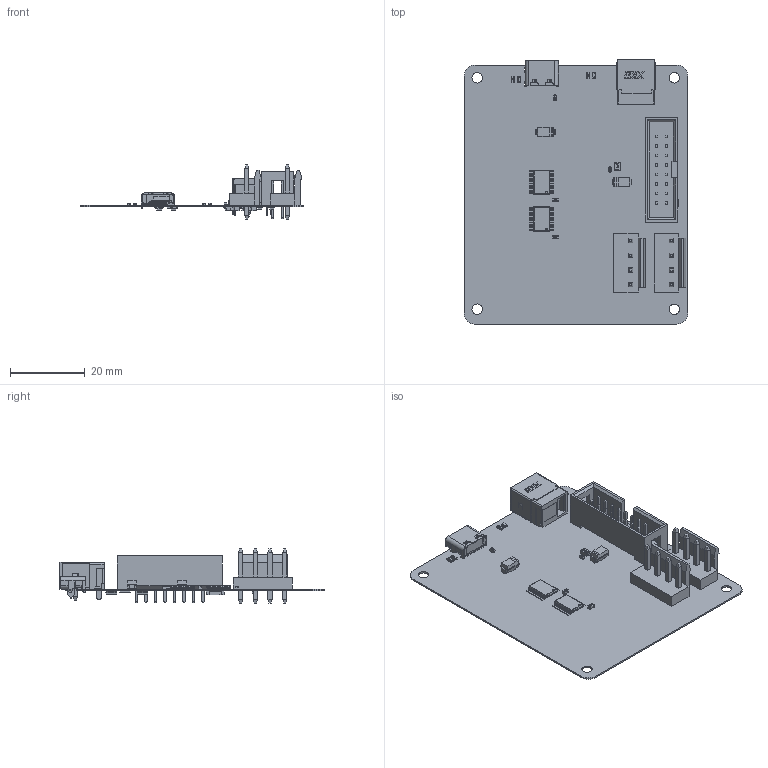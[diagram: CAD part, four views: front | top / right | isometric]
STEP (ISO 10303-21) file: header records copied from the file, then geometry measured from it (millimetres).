
FILE_DESCRIPTION(('Open CASCADE Model'),'2;1');
FILE_NAME('Open CASCADE Shape Model','2025-08-11T08:45:46',('Author'),( 'Open CASCADE'),'Open CASCADE STEP processor 6.8','Open CASCADE 6.8' ,'Unknown');
FILE_SCHEMA(('AUTOMOTIVE_DESIGN { 1 0 10303 214 1 1 1 1 }'));
Length unit declared in the file: millimetre
Products named in the file (58): PCB; Board; Open CASCADE STEP translator 6.8 7.1.1; D6; DO-214AC_SMA; C2; C_0603; LOGO?; C1; U2; txs0108epwr; U1; D5; SOD523; D7; Q8; SOT23-3; R5; User_Library-R0603-2; Q9; Q5; Q4; R7; R6; R4; F1; F0805; D4; J1; dc-044b-3a-20; J3; USB_Type_C_6pin; R3; R_0603; R2; P3; B4P-VH-O; PinVH; B4P-body_orange; R1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
Assembly tree (76 placements, depth 4):
  PCB
    Board
      Open CASCADE STEP translator 6.8 7.1.1
    D6
      DO-214AC_SMA
    C2
      C_0603
        LOGO?
        C_0603
    C1
      C_0603
        LOGO?
        C_0603
    U2
      txs0108epwr
    U1
      txs0108epwr
    D5
      SOD523
    D7
      DO-214AC_SMA
    Q8
      SOT23-3
    R5
      User_Library-R0603-2
    Q9
      SOT23-3
    Q5
      SOT23-3
    Q4
      SOT23-3
    R7
      User_Library-R0603-2
    R6
      User_Library-R0603-2
    R4
      User_Library-R0603-2
    F1
      F0805
    D4
      SOD523
    J1
      dc-044b-3a-20
    J3
      USB_Type_C_6pin
    R3
      R_0603
        R_0603
        LOGO?
    R2
      R_0603
        R_0603
        LOGO?
    P3
      B4P-VH-O
        PinVH  x4
        B4P-body_orange
    R1
      R_0603
        R_0603
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Bounding box: 60.02 x 70.89 x 14.6 mm (x, y, z)
Volume: 4814.5 mm3; surface area: 13981.2 mm2
Topology: 133 solids, 142 shells, 3758 faces, 9613 edges, 6217 vertices
Faces by surface type: plane 2426, bspline 668, cylinder 622, sphere 18, cone 12, torus 8, revolution 4
Full cylindrical faces by diameter (mm): 1.001 x16, 1.65 x8, 2.8 x4
Entity records: 82875 total; most frequent: CARTESIAN_POINT 26876, ORIENTED_EDGE 10482, DIRECTION 8875, EDGE_CURVE 5245, LINE 3827, VECTOR 3827, VERTEX_POINT 3407, AXIS2_PLACEMENT_3D 2522
